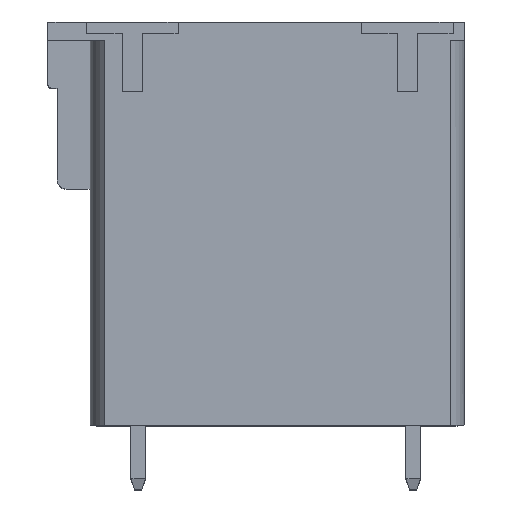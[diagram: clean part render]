
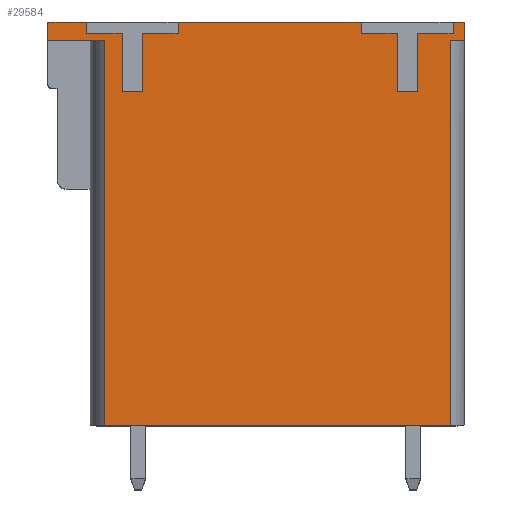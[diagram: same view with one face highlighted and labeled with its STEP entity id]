
A CAD part, top view. The second image highlights one B-rep face of the part: STEP entity #29584.
In plain terms, the highlighted planar face has unit normal (0, 0, 1).
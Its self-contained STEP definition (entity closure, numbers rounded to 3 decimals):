
#227=DIRECTION('',(0.,1.,0.));
#228=VECTOR('',#227,1.);
#229=CARTESIAN_POINT('',(-12.5,20.9,30.15));
#230=LINE('',#229,#228);
#370=DIRECTION('',(-1.,0.,0.));
#371=VECTOR('',#370,18.87);
#372=CARTESIAN_POINT('',(9.47,-0.1,30.15));
#373=LINE('',#372,#371);
#4052=DIRECTION('',(0.,-1.,0.));
#4053=VECTOR('',#4052,21.);
#4054=CARTESIAN_POINT('',(9.47,20.9,30.15));
#4055=LINE('',#4054,#4053);
#4060=DIRECTION('',(-1.,0.,0.));
#4061=VECTOR('',#4060,2.1);
#4062=CARTESIAN_POINT('',(-10.4,21.9,30.15));
#4063=LINE('',#4062,#4061);
#4064=DIRECTION('',(-1.,0.,0.));
#4065=VECTOR('',#4064,10.);
#4066=CARTESIAN_POINT('',(4.6,21.9,30.15));
#4067=LINE('',#4066,#4065);
#4068=DIRECTION('',(-1.,0.,0.));
#4069=VECTOR('',#4068,0.6);
#4070=CARTESIAN_POINT('',(10.2,21.9,30.15));
#4071=LINE('',#4070,#4069);
#4072=DIRECTION('',(0.,1.,0.));
#4073=VECTOR('',#4072,1.);
#4074=CARTESIAN_POINT('',(10.2,20.9,30.15));
#4075=LINE('',#4074,#4073);
#4076=DIRECTION('',(0.,-1.,0.));
#4077=VECTOR('',#4076,0.6);
#4078=CARTESIAN_POINT('',(-10.4,21.9,30.15));
#4079=LINE('',#4078,#4077);
#4088=DIRECTION('',(1.,0.,0.));
#4089=VECTOR('',#4088,1.95);
#4090=CARTESIAN_POINT('',(-10.4,21.3,30.15));
#4091=LINE('',#4090,#4089);
#4104=DIRECTION('',(0.,-1.,0.));
#4105=VECTOR('',#4104,3.2);
#4106=CARTESIAN_POINT('',(-8.45,21.3,30.15));
#4107=LINE('',#4106,#4105);
#4116=DIRECTION('',(1.,0.,0.));
#4117=VECTOR('',#4116,1.1);
#4118=CARTESIAN_POINT('',(-8.45,18.1,30.15));
#4119=LINE('',#4118,#4117);
#4128=DIRECTION('',(0.,1.,0.));
#4129=VECTOR('',#4128,3.2);
#4130=CARTESIAN_POINT('',(-7.35,18.1,30.15));
#4131=LINE('',#4130,#4129);
#4140=DIRECTION('',(1.,0.,0.));
#4141=VECTOR('',#4140,1.95);
#4142=CARTESIAN_POINT('',(-7.35,21.3,30.15));
#4143=LINE('',#4142,#4141);
#4152=DIRECTION('',(0.,1.,0.));
#4153=VECTOR('',#4152,0.6);
#4154=CARTESIAN_POINT('',(-5.4,21.3,30.15));
#4155=LINE('',#4154,#4153);
#4168=DIRECTION('',(0.,-1.,0.));
#4169=VECTOR('',#4168,0.6);
#4170=CARTESIAN_POINT('',(4.6,21.9,30.15));
#4171=LINE('',#4170,#4169);
#4180=DIRECTION('',(1.,0.,0.));
#4181=VECTOR('',#4180,1.95);
#4182=CARTESIAN_POINT('',(4.6,21.3,30.15));
#4183=LINE('',#4182,#4181);
#4196=DIRECTION('',(0.,-1.,0.));
#4197=VECTOR('',#4196,3.2);
#4198=CARTESIAN_POINT('',(6.55,21.3,30.15));
#4199=LINE('',#4198,#4197);
#4208=DIRECTION('',(1.,0.,0.));
#4209=VECTOR('',#4208,1.1);
#4210=CARTESIAN_POINT('',(6.55,18.1,30.15));
#4211=LINE('',#4210,#4209);
#4220=DIRECTION('',(0.,1.,0.));
#4221=VECTOR('',#4220,3.2);
#4222=CARTESIAN_POINT('',(7.65,18.1,30.15));
#4223=LINE('',#4222,#4221);
#4232=DIRECTION('',(1.,0.,0.));
#4233=VECTOR('',#4232,1.95);
#4234=CARTESIAN_POINT('',(7.65,21.3,30.15));
#4235=LINE('',#4234,#4233);
#4244=DIRECTION('',(0.,1.,0.));
#4245=VECTOR('',#4244,0.6);
#4246=CARTESIAN_POINT('',(9.6,21.3,30.15));
#4247=LINE('',#4246,#4245);
#4260=DIRECTION('',(-1.,0.,0.));
#4261=VECTOR('',#4260,0.73);
#4262=CARTESIAN_POINT('',(10.2,20.9,30.15));
#4263=LINE('',#4262,#4261);
#4273=DIRECTION('',(0.,1.,0.));
#4274=VECTOR('',#4273,21.);
#4275=CARTESIAN_POINT('',(-9.4,-0.1,30.15));
#4276=LINE('',#4275,#4274);
#4336=DIRECTION('',(-1.,0.,0.));
#4337=VECTOR('',#4336,3.1);
#4338=CARTESIAN_POINT('',(-9.4,20.9,30.15));
#4339=LINE('',#4338,#4337);
#21261=CARTESIAN_POINT('',(10.2,20.9,30.15));
#21262=VERTEX_POINT('',#21261);
#21263=CARTESIAN_POINT('',(10.2,21.9,30.15));
#21264=VERTEX_POINT('',#21263);
#21411=CARTESIAN_POINT('',(9.6,21.9,30.15));
#21412=VERTEX_POINT('',#21411);
#21417=CARTESIAN_POINT('',(4.6,21.9,30.15));
#21418=VERTEX_POINT('',#21417);
#21419=CARTESIAN_POINT('',(-5.4,21.9,30.15));
#21420=VERTEX_POINT('',#21419);
#21425=CARTESIAN_POINT('',(-10.4,21.9,30.15));
#21426=VERTEX_POINT('',#21425);
#21427=CARTESIAN_POINT('',(-12.5,21.9,30.15));
#21428=VERTEX_POINT('',#21427);
#21489=CARTESIAN_POINT('',(-10.4,21.3,30.15));
#21490=VERTEX_POINT('',#21489);
#21491=CARTESIAN_POINT('',(-8.45,21.3,30.15));
#21492=VERTEX_POINT('',#21491);
#21493=CARTESIAN_POINT('',(-8.45,18.1,30.15));
#21494=VERTEX_POINT('',#21493);
#21495=CARTESIAN_POINT('',(-7.35,18.1,30.15));
#21496=VERTEX_POINT('',#21495);
#21497=CARTESIAN_POINT('',(-7.35,21.3,30.15));
#21498=VERTEX_POINT('',#21497);
#21499=CARTESIAN_POINT('',(-5.4,21.3,30.15));
#21500=VERTEX_POINT('',#21499);
#21501=CARTESIAN_POINT('',(4.6,21.3,30.15));
#21502=VERTEX_POINT('',#21501);
#21503=CARTESIAN_POINT('',(6.55,21.3,30.15));
#21504=VERTEX_POINT('',#21503);
#21505=CARTESIAN_POINT('',(6.55,18.1,30.15));
#21506=VERTEX_POINT('',#21505);
#21507=CARTESIAN_POINT('',(7.65,18.1,30.15));
#21508=VERTEX_POINT('',#21507);
#21509=CARTESIAN_POINT('',(7.65,21.3,30.15));
#21510=VERTEX_POINT('',#21509);
#21511=CARTESIAN_POINT('',(9.6,21.3,30.15));
#21512=VERTEX_POINT('',#21511);
#21513=CARTESIAN_POINT('',(9.47,20.9,30.15));
#21514=VERTEX_POINT('',#21513);
#21515=CARTESIAN_POINT('',(9.47,-0.1,30.15));
#21516=VERTEX_POINT('',#21515);
#21517=CARTESIAN_POINT('',(-9.4,-0.1,30.15));
#21518=VERTEX_POINT('',#21517);
#21519=CARTESIAN_POINT('',(-9.4,20.9,30.15));
#21520=VERTEX_POINT('',#21519);
#21521=CARTESIAN_POINT('',(-12.5,20.9,30.15));
#21522=VERTEX_POINT('',#21521);
#29536=CARTESIAN_POINT('',(10.2,0.,30.15));
#29537=DIRECTION('',(0.,0.,1.));
#29538=DIRECTION('',(-1.,0.,0.));
#29539=AXIS2_PLACEMENT_3D('',#29536,#29537,#29538);
#29540=PLANE('',#29539);
#29541=ORIENTED_EDGE('',*,*,#24335,.F.);
#29543=ORIENTED_EDGE('',*,*,#29542,.T.);
#29545=ORIENTED_EDGE('',*,*,#29544,.T.);
#29547=ORIENTED_EDGE('',*,*,#29546,.T.);
#29549=ORIENTED_EDGE('',*,*,#29548,.T.);
#29551=ORIENTED_EDGE('',*,*,#29550,.T.);
#29553=ORIENTED_EDGE('',*,*,#29552,.T.);
#29555=ORIENTED_EDGE('',*,*,#29554,.T.);
#29556=ORIENTED_EDGE('',*,*,#24327,.F.);
#29558=ORIENTED_EDGE('',*,*,#29557,.T.);
#29560=ORIENTED_EDGE('',*,*,#29559,.T.);
#29562=ORIENTED_EDGE('',*,*,#29561,.T.);
#29564=ORIENTED_EDGE('',*,*,#29563,.T.);
#29566=ORIENTED_EDGE('',*,*,#29565,.T.);
#29568=ORIENTED_EDGE('',*,*,#29567,.T.);
#29570=ORIENTED_EDGE('',*,*,#29569,.T.);
#29571=ORIENTED_EDGE('',*,*,#24319,.F.);
#29572=ORIENTED_EDGE('',*,*,#24288,.F.);
#29574=ORIENTED_EDGE('',*,*,#29573,.T.);
#29575=ORIENTED_EDGE('',*,*,#29529,.T.);
#29576=ORIENTED_EDGE('',*,*,#24711,.T.);
#29578=ORIENTED_EDGE('',*,*,#29577,.T.);
#29580=ORIENTED_EDGE('',*,*,#29579,.T.);
#29581=ORIENTED_EDGE('',*,*,#24578,.T.);
#29582=EDGE_LOOP('',(#29541,#29543,#29545,#29547,#29549,#29551,#29553,#29555,
#29556,#29558,#29560,#29562,#29564,#29566,#29568,#29570,#29571,#29572,#29574,
#29575,#29576,#29578,#29580,#29581));
#29583=FACE_OUTER_BOUND('',#29582,.F.);
#29584=ADVANCED_FACE('',(#29583),#29540,.T.);
#24288=EDGE_CURVE('',#21262,#21264,#4075,.T.);
#24319=EDGE_CURVE('',#21264,#21412,#4071,.T.);
#24327=EDGE_CURVE('',#21418,#21420,#4067,.T.);
#24335=EDGE_CURVE('',#21426,#21428,#4063,.T.);
#24578=EDGE_CURVE('',#21522,#21428,#230,.T.);
#24711=EDGE_CURVE('',#21516,#21518,#373,.T.);
#29529=EDGE_CURVE('',#21514,#21516,#4055,.T.);
#29542=EDGE_CURVE('',#21426,#21490,#4079,.T.);
#29544=EDGE_CURVE('',#21490,#21492,#4091,.T.);
#29546=EDGE_CURVE('',#21492,#21494,#4107,.T.);
#29548=EDGE_CURVE('',#21494,#21496,#4119,.T.);
#29550=EDGE_CURVE('',#21496,#21498,#4131,.T.);
#29552=EDGE_CURVE('',#21498,#21500,#4143,.T.);
#29554=EDGE_CURVE('',#21500,#21420,#4155,.T.);
#29557=EDGE_CURVE('',#21418,#21502,#4171,.T.);
#29559=EDGE_CURVE('',#21502,#21504,#4183,.T.);
#29561=EDGE_CURVE('',#21504,#21506,#4199,.T.);
#29563=EDGE_CURVE('',#21506,#21508,#4211,.T.);
#29565=EDGE_CURVE('',#21508,#21510,#4223,.T.);
#29567=EDGE_CURVE('',#21510,#21512,#4235,.T.);
#29569=EDGE_CURVE('',#21512,#21412,#4247,.T.);
#29573=EDGE_CURVE('',#21262,#21514,#4263,.T.);
#29577=EDGE_CURVE('',#21518,#21520,#4276,.T.);
#29579=EDGE_CURVE('',#21520,#21522,#4339,.T.);
